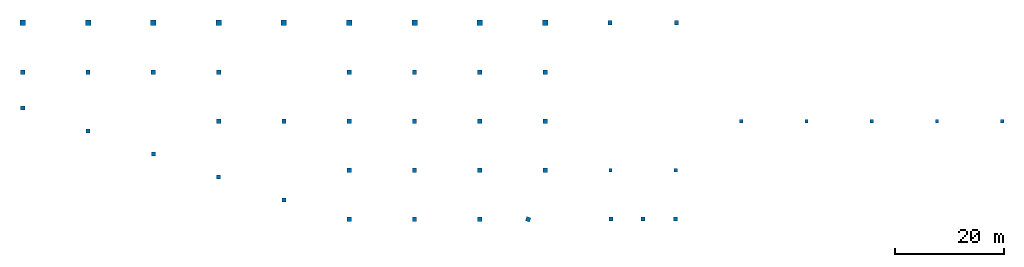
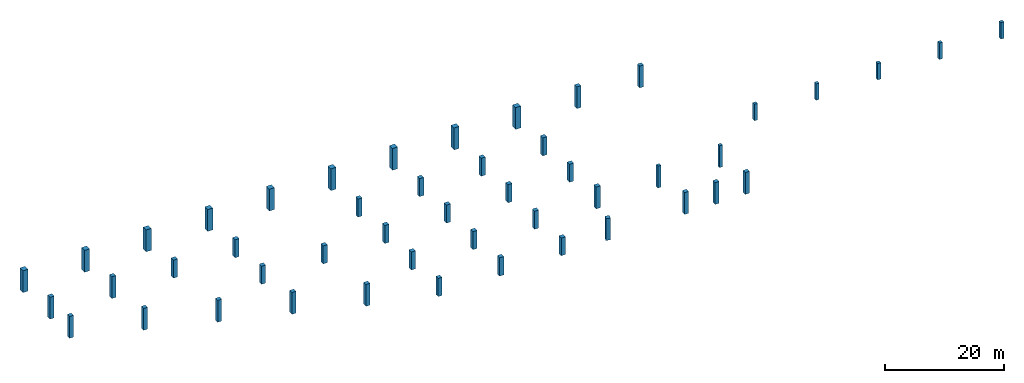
# One storey: 48 columns.
"""IFC2X3 building model written with IfcOpenShell, lengths in millimetres."""

from ifc_helpers import new_model, si_unit, origin, place, context, project, spatial, faceted_brep, material, element, save


model = new_model("IFC2X3")

# Units and contexts
context_of_model = context(None, 3, precision=1e-05, world=origin())
ifc_project = project(units=[si_unit("LENGTHUNIT", "METRE", prefix="MILLI")], contexts=[context_of_model])

# Building, storey
building = spatial("IfcBuilding", under=ifc_project, Name="Building", CompositionType="ELEMENT")
storey = spatial("IfcBuildingStorey", under=building, Name="B1-FRM", CompositionType="ELEMENT")

# Columns
ifc_material_1 = material(Name="C5000")
column_1_placement = place(None, origin())
element("IfcColumn", 1, at=column_1_placement, inside=storey, material=ifc_material_1, Name="Column214", context=context_of_model, shape_type="Brep", body=[
    faceted_brep([(-299.999, -299.999, -4500.0), (462.001, -299.999, -4500.0), (462.001, -299.999, 0.0), (-299.999, -299.999, 0.0), (462.001, 462.001, -4500.0), (462.001, 462.001, 0.0), (-299.999, 462.001, -4500.0), (-299.999, 462.001, 0.0)], [[[0, 1, 2, 3]], [[1, 4, 5, 2]], [[4, 6, 7, 5]], [[6, 0, 3, 7]], [[0, 6, 4, 1]], [[3, 2, 5, 7]]]),
])
ifc_material_2 = material(Name="C5000")
column_2_placement = place(None, origin())
element("IfcColumn", 2, at=column_2_placement, inside=storey, material=ifc_material_2, Name="Column215", context=context_of_model, shape_type="Brep", body=[
    faceted_brep([(11538.0, -299.999, -4500.0), (12300.0, -299.999, -4500.0), (12300.0, -299.999, 0.0), (11538.0, -299.999, 0.0), (12300.0, 462.001, -4500.0), (12300.0, 462.001, 0.0), (11538.0, 462.001, -4500.0), (11538.0, 462.001, 0.0)], [[[0, 1, 2, 3]], [[1, 4, 5, 2]], [[4, 6, 7, 5]], [[6, 0, 3, 7]], [[0, 6, 4, 1]], [[3, 2, 5, 7]]]),
])
ifc_material_3 = material(Name="C5000")
column_3_placement = place(None, origin())
element("IfcColumn", 3, at=column_3_placement, inside=storey, material=ifc_material_3, Name="Column247", context=context_of_model, shape_type="Brep", body=[
    faceted_brep([(6381.0, -299.999, -4500.0), (6381.0, 462.001, -4500.0), (6381.0, 462.001, 0.0), (6381.0, -299.999, 0.0), (5619.0, 462.001, -4500.0), (5619.0, 462.001, 0.0), (5619.0, -299.999, -4500.0), (5619.0, -299.999, 0.0)], [[[0, 1, 2, 3]], [[1, 4, 5, 2]], [[4, 6, 7, 5]], [[6, 0, 3, 7]], [[0, 6, 4, 1]], [[3, 2, 5, 7]]]),
])
ifc_material_4 = material(Name="C5000")
column_4_placement = place(None, origin())
element("IfcColumn", 4, at=column_4_placement, inside=storey, material=ifc_material_4, Name="Column255", context=context_of_model, shape_type="Brep", body=[
    faceted_brep([(48304.8, 17695.2, -4500.0), (48304.8, 18304.8, -4500.0), (48304.8, 18304.8, -1117.6), (48304.8, 17695.2, -1117.6), (47695.2, 18304.8, -4500.0), (47695.2, 18304.8, -1117.6), (47695.2, 17695.2, -4500.0), (47695.2, 17695.2, -1117.6)], [[[0, 1, 2, 3]], [[1, 4, 5, 2]], [[4, 6, 7, 5]], [[6, 0, 3, 7]], [[0, 6, 4, 1]], [[3, 2, 5, 7]]]),
])
ifc_material_5 = material(Name="C5000")
column_5_placement = place(None, origin())
element("IfcColumn", 5, at=column_5_placement, inside=storey, material=ifc_material_5, Name="Column256", context=context_of_model, shape_type="Brep", body=[
    faceted_brep([(72304.8, 17695.2, -4500.0), (72304.8, 18304.8, -4500.0), (72304.8, 18304.8, -1117.6), (72304.8, 17695.2, -1117.6), (71695.2, 18304.8, -4500.0), (71695.2, 18304.8, -1117.6), (71695.2, 17695.2, -4500.0), (71695.2, 17695.2, -1117.6)], [[[0, 1, 2, 3]], [[1, 4, 5, 2]], [[4, 6, 7, 5]], [[6, 0, 3, 7]], [[0, 6, 4, 1]], [[3, 2, 5, 7]]]),
])
ifc_material_6 = material(Name="C5000")
column_6_placement = place(None, origin())
element("IfcColumn", 6, at=column_6_placement, inside=storey, material=ifc_material_6, Name="Column257", context=context_of_model, shape_type="Brep", body=[
    faceted_brep([(60304.8, 17695.2, -4500.0), (60304.8, 18304.8, -4500.0), (60304.8, 18304.8, -1117.6), (60304.8, 17695.2, -1117.6), (59695.2, 18304.8, -4500.0), (59695.2, 18304.8, -1117.6), (59695.2, 17695.2, -4500.0), (59695.2, 17695.2, -1117.6)], [[[0, 1, 2, 3]], [[1, 4, 5, 2]], [[4, 6, 7, 5]], [[6, 0, 3, 7]], [[0, 6, 4, 1]], [[3, 2, 5, 7]]]),
])
ifc_material_7 = material(Name="C5000")
column_7_placement = place(None, origin())
element("IfcColumn", 7, at=column_7_placement, inside=storey, material=ifc_material_7, Name="Column258", context=context_of_model, shape_type="Brep", body=[
    faceted_brep([(36304.8, 17695.2, -4500.0), (36304.8, 18304.8, -4500.0), (36304.8, 18304.8, -1117.6), (36304.8, 17695.2, -1117.6), (35695.2, 18304.8, -4500.0), (35695.2, 18304.8, -1117.6), (35695.2, 17695.2, -4500.0), (35695.2, 17695.2, -1117.6)], [[[0, 1, 2, 3]], [[1, 4, 5, 2]], [[4, 6, 7, 5]], [[6, 0, 3, 7]], [[0, 6, 4, 1]], [[3, 2, 5, 7]]]),
])
ifc_material_8 = material(Name="C5000")
column_8_placement = place(None, origin())
element("IfcColumn", 8, at=column_8_placement, inside=storey, material=ifc_material_8, Name="Column259", context=context_of_model, shape_type="Brep", body=[
    faceted_brep([(24304.8, 17695.2, -4500.0), (24304.8, 18304.8, -4500.0), (24304.8, 18304.8, -1117.6), (24304.8, 17695.2, -1117.6), (23695.2, 18304.8, -4500.0), (23695.2, 18304.8, -1117.6), (23695.2, 17695.2, -4500.0), (23695.2, 17695.2, -1117.6)], [[[0, 1, 2, 3]], [[1, 4, 5, 2]], [[4, 6, 7, 5]], [[6, 0, 3, 7]], [[0, 6, 4, 1]], [[3, 2, 5, 7]]]),
])
ifc_material_9 = material(Name="C5000")
column_9_placement = place(None, origin())
element("IfcColumn", 9, at=column_9_placement, inside=storey, material=ifc_material_9, Name="B27", context=context_of_model, shape_type="Brep", body=[
    faceted_brep([(-107500.0, 35619.0, -4500.0), (-107500.0, 36619.0, -4500.0), (-107500.0, 36619.0, 0.0), (-107500.0, 35619.0, 0.0), (-108500.0, 36619.0, -4500.0), (-108500.0, 36619.0, 0.0), (-108500.0, 35619.0, -4500.0), (-108500.0, 35619.0, 0.0)], [[[0, 1, 2, 3]], [[1, 4, 5, 2]], [[4, 6, 7, 5]], [[6, 0, 3, 7]], [[0, 6, 4, 1]], [[3, 2, 5, 7]]]),
])
ifc_material_10 = material(Name="C5000")
column_10_placement = place(None, origin())
element("IfcColumn", 10, at=column_10_placement, inside=storey, material=ifc_material_10, Name="B28", context=context_of_model, shape_type="Brep", body=[
    faceted_brep([(-95500.0, 35619.0, -4500.0), (-95500.0, 36619.0, -4500.0), (-95500.0, 36619.0, 0.0), (-95500.0, 35619.0, 0.0), (-96500.0, 36619.0, -4500.0), (-96500.0, 36619.0, 0.0), (-96500.0, 35619.0, -4500.0), (-96500.0, 35619.0, 0.0)], [[[0, 1, 2, 3]], [[1, 4, 5, 2]], [[4, 6, 7, 5]], [[6, 0, 3, 7]], [[0, 6, 4, 1]], [[3, 2, 5, 7]]]),
])
ifc_material_11 = material(Name="C5000")
column_11_placement = place(None, origin())
element("IfcColumn", 11, at=column_11_placement, inside=storey, material=ifc_material_11, Name="B29", context=context_of_model, shape_type="Brep", body=[
    faceted_brep([(-83500.0, 35619.0, -4500.0), (-83500.0, 36619.0, -4500.0), (-83500.0, 36619.0, 0.0), (-83500.0, 35619.0, 0.0), (-84500.0, 36619.0, -4500.0), (-84500.0, 36619.0, 0.0), (-84500.0, 35619.0, -4500.0), (-84500.0, 35619.0, 0.0)], [[[0, 1, 2, 3]], [[1, 4, 5, 2]], [[4, 6, 7, 5]], [[6, 0, 3, 7]], [[0, 6, 4, 1]], [[3, 2, 5, 7]]]),
])
ifc_material_12 = material(Name="C5000")
column_12_placement = place(None, origin())
element("IfcColumn", 12, at=column_12_placement, inside=storey, material=ifc_material_12, Name="B30", context=context_of_model, shape_type="Brep", body=[
    faceted_brep([(-71500.0, 35619.0, -4500.0), (-71500.0, 36619.0, -4500.0), (-71500.0, 36619.0, 0.0), (-71500.0, 35619.0, 0.0), (-72500.0, 36619.0, -4500.0), (-72500.0, 36619.0, 0.0), (-72500.0, 35619.0, -4500.0), (-72500.0, 35619.0, 0.0)], [[[0, 1, 2, 3]], [[1, 4, 5, 2]], [[4, 6, 7, 5]], [[6, 0, 3, 7]], [[0, 6, 4, 1]], [[3, 2, 5, 7]]]),
])
ifc_material_13 = material(Name="C5000")
column_13_placement = place(None, origin())
element("IfcColumn", 13, at=column_13_placement, inside=storey, material=ifc_material_13, Name="B31", context=context_of_model, shape_type="Brep", body=[
    faceted_brep([(-59500.0, 35619.0, -4500.0), (-59500.0, 36619.0, -4500.0), (-59500.0, 36619.0, 0.0), (-59500.0, 35619.0, 0.0), (-60500.0, 36619.0, -4500.0), (-60500.0, 36619.0, 0.0), (-60500.0, 35619.0, -4500.0), (-60500.0, 35619.0, 0.0)], [[[0, 1, 2, 3]], [[1, 4, 5, 2]], [[4, 6, 7, 5]], [[6, 0, 3, 7]], [[0, 6, 4, 1]], [[3, 2, 5, 7]]]),
])
ifc_material_14 = material(Name="C5000")
column_14_placement = place(None, origin())
element("IfcColumn", 14, at=column_14_placement, inside=storey, material=ifc_material_14, Name="B32", context=context_of_model, shape_type="Brep", body=[
    faceted_brep([(-47500.0, 35619.0, -4500.0), (-47500.0, 36619.0, -4500.0), (-47500.0, 36619.0, 0.0), (-47500.0, 35619.0, 0.0), (-48500.0, 36619.0, -4500.0), (-48500.0, 36619.0, 0.0), (-48500.0, 35619.0, -4500.0), (-48500.0, 35619.0, 0.0)], [[[0, 1, 2, 3]], [[1, 4, 5, 2]], [[4, 6, 7, 5]], [[6, 0, 3, 7]], [[0, 6, 4, 1]], [[3, 2, 5, 7]]]),
])
ifc_material_15 = material(Name="C5000")
column_15_placement = place(None, origin())
element("IfcColumn", 15, at=column_15_placement, inside=storey, material=ifc_material_15, Name="B33", context=context_of_model, shape_type="Brep", body=[
    faceted_brep([(-35500.0, 35619.0, -4500.0), (-35500.0, 36619.0, -4500.0), (-35500.0, 36619.0, 0.0), (-35500.0, 35619.0, 0.0), (-36500.0, 36619.0, -4500.0), (-36500.0, 36619.0, 0.0), (-36500.0, 35619.0, -4500.0), (-36500.0, 35619.0, 0.0)], [[[0, 1, 2, 3]], [[1, 4, 5, 2]], [[4, 6, 7, 5]], [[6, 0, 3, 7]], [[0, 6, 4, 1]], [[3, 2, 5, 7]]]),
])
ifc_material_16 = material(Name="C5000")
column_16_placement = place(None, origin())
element("IfcColumn", 16, at=column_16_placement, inside=storey, material=ifc_material_16, Name="B34", context=context_of_model, shape_type="Brep", body=[
    faceted_brep([(-23500.0, 35619.0, -4500.0), (-23500.0, 36619.0, -4500.0), (-23500.0, 36619.0, 0.0), (-23500.0, 35619.0, 0.0), (-24500.0, 36619.0, -4500.0), (-24500.0, 36619.0, 0.0), (-24500.0, 35619.0, -4500.0), (-24500.0, 35619.0, 0.0)], [[[0, 1, 2, 3]], [[1, 4, 5, 2]], [[4, 6, 7, 5]], [[6, 0, 3, 7]], [[0, 6, 4, 1]], [[3, 2, 5, 7]]]),
])
ifc_material_17 = material(Name="C5000")
column_17_placement = place(None, origin())
element("IfcColumn", 17, at=column_17_placement, inside=storey, material=ifc_material_17, Name="B35", context=context_of_model, shape_type="Brep", body=[
    faceted_brep([(-11500.0, 35619.0, -4500.0), (-11500.0, 36619.0, -4500.0), (-11500.0, 36619.0, 0.0), (-11500.0, 35619.0, 0.0), (-12500.0, 36619.0, -4500.0), (-12500.0, 36619.0, 0.0), (-12500.0, 35619.0, -4500.0), (-12500.0, 35619.0, 0.0)], [[[0, 1, 2, 3]], [[1, 4, 5, 2]], [[4, 6, 7, 5]], [[6, 0, 3, 7]], [[0, 6, 4, 1]], [[3, 2, 5, 7]]]),
])
ifc_material_18 = material(Name="C5000")
column_18_placement = place(None, origin())
element("IfcColumn", 18, at=column_18_placement, inside=storey, material=ifc_material_18, Name="Column521", context=context_of_model, shape_type="Brep", body=[
    faceted_brep([(-95619.0, 15850.9, -4500.0), (-95619.0, 16612.9, -4500.0), (-95619.0, 16612.9, -1.43332e-12), (-95619.0, 15850.9, 7.03916e-13), (-96381.0, 16612.9, -4500.0), (-96381.0, 16612.9, -1.06862e-12), (-96381.0, 15850.9, -4500.0), (-96381.0, 15850.9, 1.06862e-12)], [[[0, 1, 2, 3]], [[1, 4, 5, 2]], [[4, 6, 7, 5]], [[6, 0, 3, 7]], [[0, 6, 4, 1]], [[3, 2, 5, 7]]]),
])
ifc_material_19 = material(Name="C5000")
column_19_placement = place(None, origin())
element("IfcColumn", 19, at=column_19_placement, inside=storey, material=ifc_material_19, Name="Column522", context=context_of_model, shape_type="Brep", body=[
    faceted_brep([(-83619.0, 11632.6, -4500.0), (-83619.0, 12394.6, -4500.0), (-83619.0, 12394.6, -9.64044e-13), (-83619.0, 11632.6, 2.59802e-12), (-84381.0, 12394.6, -4500.0), (-84381.0, 12394.6, -3.56206e-13), (-84381.0, 11632.6, -4500.0), (-84381.0, 11632.6, 3.20586e-12)], [[[0, 1, 2, 3]], [[1, 4, 5, 2]], [[4, 6, 7, 5]], [[6, 0, 3, 7]], [[0, 6, 4, 1]], [[3, 2, 5, 7]]]),
])
ifc_material_20 = material(Name="C5000")
column_20_placement = place(None, origin())
element("IfcColumn", 20, at=column_20_placement, inside=storey, material=ifc_material_20, Name="Column523", context=context_of_model, shape_type="Brep", body=[
    faceted_brep([(-71619.0, 7414.39, -4500.0), (-71619.0, 8176.39, -4500.0), (-71619.0, 8176.39, -1.75082e-06), (-71619.0, 7414.39, -1.75082e-06), (-72381.0, 8176.39, -4500.0), (-72381.0, 8176.39, 1.78103e-13), (-72381.0, 7414.39, -4500.0), (-72381.0, 7414.39, 2.67155e-12)], [[[0, 1, 2, 3]], [[1, 4, 5, 2]], [[4, 6, 7, 5]], [[6, 0, 3, 7]], [[0, 6, 4, 1]], [[3, 2, 5, 7]]]),
])
ifc_material_21 = material(Name="C5000")
column_21_placement = place(None, origin())
element("IfcColumn", 21, at=column_21_placement, inside=storey, material=ifc_material_21, Name="Column524", context=context_of_model, shape_type="Brep", body=[
    faceted_brep([(-59619.0, 3196.15, -4500.0), (-59619.0, 3958.15, -4500.0), (-59619.0, 3958.15, -1.13471e-12), (-59619.0, 3196.15, 5.57267e-13), (-60381.0, 3958.15, -4500.0), (-60381.0, 3958.15, -8.4599e-13), (-60381.0, 3196.15, -4500.0), (-60381.0, 3196.15, 8.4599e-13)], [[[0, 1, 2, 3]], [[1, 4, 5, 2]], [[4, 6, 7, 5]], [[6, 0, 3, 7]], [[0, 6, 4, 1]], [[3, 2, 5, 7]]]),
])
ifc_material_22 = material(Name="C5000")
column_22_placement = place(None, origin())
element("IfcColumn", 22, at=column_22_placement, inside=storey, material=ifc_material_22, Name="Column526", context=context_of_model, shape_type="Brep", body=[
    faceted_brep([(-95600.0, 27400.0, -4500.0), (-96400.0, 27400.0, -4500.0), (-96400.0, 27400.0, 0.0), (-95600.0, 27400.0, 0.0), (-96400.0, 26600.0, -4500.0), (-96400.0, 26600.0, 0.0), (-95600.0, 26600.0, -4500.0), (-95600.0, 26600.0, 0.0)], [[[0, 1, 2, 3]], [[1, 4, 5, 2]], [[4, 6, 7, 5]], [[6, 0, 3, 7]], [[0, 6, 4, 1]], [[3, 2, 5, 7]]]),
])
ifc_material_23 = material(Name="C5000")
column_23_placement = place(None, origin())
element("IfcColumn", 23, at=column_23_placement, inside=storey, material=ifc_material_23, Name="Column527", context=context_of_model, shape_type="Brep", body=[
    faceted_brep([(-83600.0, 27400.0, -4500.0), (-84400.0, 27400.0, -4500.0), (-84400.0, 27400.0, -787.4), (-83600.0, 27400.0, -787.4), (-84400.0, 26600.0, -4500.0), (-84400.0, 26599.9, -787.4), (-83600.0, 26600.0, -4500.0), (-83600.0, 26599.9, -787.4)], [[[0, 1, 2, 3]], [[1, 4, 5, 2]], [[4, 6, 7, 5]], [[6, 0, 3, 7]], [[0, 6, 4, 1]], [[3, 2, 5, 7]]]),
])
ifc_material_24 = material(Name="C5000")
column_24_placement = place(None, origin())
element("IfcColumn", 24, at=column_24_placement, inside=storey, material=ifc_material_24, Name="Column528", context=context_of_model, shape_type="Brep", body=[
    faceted_brep([(-71600.0, 27400.0, -4500.0), (-72400.0, 27400.0, -4500.0), (-72400.1, 27400.0, -787.4), (-71600.0, 27400.0, -787.4), (-72400.0, 26600.0, -4500.0), (-72400.1, 26600.0, -787.4), (-71600.0, 26600.0, -4500.0), (-71600.0, 26600.0, -787.4)], [[[0, 1, 2, 3]], [[1, 4, 5, 2]], [[4, 6, 7, 5]], [[6, 0, 3, 7]], [[0, 6, 4, 1]], [[3, 2, 5, 7]]]),
])
ifc_material_25 = material(Name="C5000")
column_25_placement = place(None, origin())
element("IfcColumn", 25, at=column_25_placement, inside=storey, material=ifc_material_25, Name="Column529", context=context_of_model, shape_type="Brep", body=[
    faceted_brep([(-71600.0, 18400.0, -4500.0), (-72400.0, 18400.0, -4500.0), (-72400.0, 18400.0, -787.4), (-71600.0, 18400.0, -787.4), (-72400.0, 17600.0, -4500.0), (-72400.0, 17600.0, -787.4), (-71600.0, 17600.0, -4500.0), (-71600.0, 17600.0, -787.4)], [[[0, 1, 2, 3]], [[1, 4, 5, 2]], [[4, 6, 7, 5]], [[6, 0, 3, 7]], [[0, 6, 4, 1]], [[3, 2, 5, 7]]]),
])
ifc_material_26 = material(Name="C5000")
column_26_placement = place(None, origin())
element("IfcColumn", 26, at=column_26_placement, inside=storey, material=ifc_material_26, Name="Column530", context=context_of_model, shape_type="Brep", body=[
    faceted_brep([(-59599.9, 18400.0, -4500.0), (-60400.1, 18400.0, -4500.0), (-60400.1, 18400.0, -787.4), (-59599.9, 18400.0, -787.4), (-60400.1, 17600.0, -4500.0), (-60400.1, 17600.0, -787.4), (-59599.9, 17600.0, -4500.0), (-59599.9, 17600.0, -787.4)], [[[0, 1, 2, 3]], [[1, 4, 5, 2]], [[4, 6, 7, 5]], [[6, 0, 3, 7]], [[0, 6, 4, 1]], [[3, 2, 5, 7]]]),
])
ifc_material_27 = material(Name="C5000")
column_27_placement = place(None, origin())
element("IfcColumn", 27, at=column_27_placement, inside=storey, material=ifc_material_27, Name="Column531", context=context_of_model, shape_type="Brep", body=[
    faceted_brep([(-47599.9, 9400.05, -4500.0), (-48400.1, 9400.05, -4500.0), (-48400.0, 9400.05, -787.4), (-47599.9, 9400.05, -787.4), (-48400.1, 8599.95, -4500.0), (-48400.0, 8599.95, -787.4), (-47599.9, 8599.95, -4500.0), (-47599.9, 8599.95, -787.4)], [[[0, 1, 2, 3]], [[1, 4, 5, 2]], [[4, 6, 7, 5]], [[6, 0, 3, 7]], [[0, 6, 4, 1]], [[3, 2, 5, 7]]]),
])
ifc_material_28 = material(Name="C5000")
column_28_placement = place(None, origin())
element("IfcColumn", 28, at=column_28_placement, inside=storey, material=ifc_material_28, Name="Column532", context=context_of_model, shape_type="Brep", body=[
    faceted_brep([(-47599.9, 18400.0, -4500.0), (-48400.1, 18400.0, -4500.0), (-48400.1, 18400.0, -787.4), (-47599.9, 18400.0, -787.4), (-48400.1, 17600.0, -4500.0), (-48400.1, 17600.0, -787.4), (-47599.9, 17600.0, -4500.0), (-47599.9, 17600.0, -787.4)], [[[0, 1, 2, 3]], [[1, 4, 5, 2]], [[4, 6, 7, 5]], [[6, 0, 3, 7]], [[0, 6, 4, 1]], [[3, 2, 5, 7]]]),
])
ifc_material_29 = material(Name="C5000")
column_29_placement = place(None, origin())
element("IfcColumn", 29, at=column_29_placement, inside=storey, material=ifc_material_29, Name="Column533", context=context_of_model, shape_type="Brep", body=[
    faceted_brep([(-47599.9, 27400.0, -4500.0), (-48400.1, 27400.0, -4500.0), (-48400.0, 27400.0, -787.4), (-47599.9, 27400.0, -787.4), (-48400.1, 26600.0, -4500.0), (-48400.0, 26600.0, -787.4), (-47599.9, 26600.0, -4500.0), (-47599.9, 26600.0, -787.4)], [[[0, 1, 2, 3]], [[1, 4, 5, 2]], [[4, 6, 7, 5]], [[6, 0, 3, 7]], [[0, 6, 4, 1]], [[3, 2, 5, 7]]]),
])
ifc_material_30 = material(Name="C5000")
column_30_placement = place(None, origin())
element("IfcColumn", 30, at=column_30_placement, inside=storey, material=ifc_material_30, Name="Column534", context=context_of_model, shape_type="Brep", body=[
    faceted_brep([(-35599.9, 9400.05, -4500.0), (-36400.1, 9400.05, -4500.0), (-36400.0, 9400.05, -787.4), (-35599.9, 9400.05, -787.4), (-36400.1, 8599.95, -4500.0), (-36400.0, 8599.95, -787.4), (-35599.9, 8599.95, -4500.0), (-35599.9, 8599.95, -787.4)], [[[0, 1, 2, 3]], [[1, 4, 5, 2]], [[4, 6, 7, 5]], [[6, 0, 3, 7]], [[0, 6, 4, 1]], [[3, 2, 5, 7]]]),
])
ifc_material_31 = material(Name="C5000")
column_31_placement = place(None, origin())
element("IfcColumn", 31, at=column_31_placement, inside=storey, material=ifc_material_31, Name="Column535", context=context_of_model, shape_type="Brep", body=[
    faceted_brep([(-35599.9, 18400.0, -4500.0), (-36400.1, 18400.0, -4500.0), (-36400.1, 18400.0, -787.4), (-35599.9, 18400.0, -787.4), (-36400.1, 17600.0, -4500.0), (-36400.1, 17600.0, -787.4), (-35599.9, 17600.0, -4500.0), (-35599.9, 17600.0, -787.4)], [[[0, 1, 2, 3]], [[1, 4, 5, 2]], [[4, 6, 7, 5]], [[6, 0, 3, 7]], [[0, 6, 4, 1]], [[3, 2, 5, 7]]]),
])
ifc_material_32 = material(Name="C5000")
column_32_placement = place(None, origin())
element("IfcColumn", 32, at=column_32_placement, inside=storey, material=ifc_material_32, Name="Column536", context=context_of_model, shape_type="Brep", body=[
    faceted_brep([(-35599.9, 27400.0, -4500.0), (-36400.1, 27400.0, -4500.0), (-36400.1, 27400.0, -787.4), (-35599.9, 27400.0, -787.4), (-36400.1, 26600.0, -4500.0), (-36400.1, 26600.0, -787.4), (-35599.9, 26600.0, -4500.0), (-35599.9, 26600.0, -787.4)], [[[0, 1, 2, 3]], [[1, 4, 5, 2]], [[4, 6, 7, 5]], [[6, 0, 3, 7]], [[0, 6, 4, 1]], [[3, 2, 5, 7]]]),
])
ifc_material_33 = material(Name="C5000")
column_33_placement = place(None, origin())
element("IfcColumn", 33, at=column_33_placement, inside=storey, material=ifc_material_33, Name="Column537", context=context_of_model, shape_type="Brep", body=[
    faceted_brep([(-23600.0, 27400.0, -4500.0), (-24400.0, 27400.0, -4500.0), (-24400.0, 27400.0, -787.4), (-23599.9, 27400.0, -787.4), (-24400.0, 26600.0, -4500.0), (-24400.0, 26600.0, -787.4), (-23600.0, 26600.0, -4500.0), (-23599.9, 26600.0, -787.4)], [[[0, 1, 2, 3]], [[1, 4, 5, 2]], [[4, 6, 7, 5]], [[6, 0, 3, 7]], [[0, 6, 4, 1]], [[3, 2, 5, 7]]]),
])
ifc_material_34 = material(Name="C5000")
column_34_placement = place(None, origin())
element("IfcColumn", 34, at=column_34_placement, inside=storey, material=ifc_material_34, Name="Column538", context=context_of_model, shape_type="Brep", body=[
    faceted_brep([(-23600.0, 18400.0, -4500.0), (-24400.0, 18400.0, -4500.0), (-24400.0, 18400.0, -787.4), (-23600.0, 18400.0, -787.4), (-24400.0, 17600.0, -4500.0), (-24400.0, 17600.0, -787.4), (-23600.0, 17600.0, -4500.0), (-23600.0, 17600.0, -787.4)], [[[0, 1, 2, 3]], [[1, 4, 5, 2]], [[4, 6, 7, 5]], [[6, 0, 3, 7]], [[0, 6, 4, 1]], [[3, 2, 5, 7]]]),
])
ifc_material_35 = material(Name="C5000")
column_35_placement = place(None, origin())
element("IfcColumn", 35, at=column_35_placement, inside=storey, material=ifc_material_35, Name="Column539", context=context_of_model, shape_type="Brep", body=[
    faceted_brep([(-23600.0, 9400.05, -4500.0), (-24400.0, 9400.05, -4500.0), (-24400.0, 9400.05, -787.4), (-23599.9, 9400.05, -787.4), (-24400.0, 8599.95, -4500.0), (-24400.0, 8599.95, -787.4), (-23600.0, 8599.95, -4500.0), (-23599.9, 8599.95, -787.4)], [[[0, 1, 2, 3]], [[1, 4, 5, 2]], [[4, 6, 7, 5]], [[6, 0, 3, 7]], [[0, 6, 4, 1]], [[3, 2, 5, 7]]]),
])
ifc_material_36 = material(Name="C5000")
column_36_placement = place(None, origin())
element("IfcColumn", 36, at=column_36_placement, inside=storey, material=ifc_material_36, Name="Column540", context=context_of_model, shape_type="Brep", body=[
    faceted_brep([(-11599.9, 18400.0, -4500.0), (-12400.1, 18400.0, -4500.0), (-12400.1, 18400.0, -787.4), (-11599.9, 18400.0, -787.4), (-12400.1, 17600.0, -4500.0), (-12400.1, 17600.0, -787.4), (-11599.9, 17600.0, -4500.0), (-11599.9, 17600.0, -787.4)], [[[0, 1, 2, 3]], [[1, 4, 5, 2]], [[4, 6, 7, 5]], [[6, 0, 3, 7]], [[0, 6, 4, 1]], [[3, 2, 5, 7]]]),
])
ifc_material_37 = material(Name="C5000")
column_37_placement = place(None, origin())
element("IfcColumn", 37, at=column_37_placement, inside=storey, material=ifc_material_37, Name="Column541", context=context_of_model, shape_type="Brep", body=[
    faceted_brep([(-11599.9, 27400.0, -4500.0), (-12400.1, 27400.0, -4500.0), (-12400.1, 27400.0, -787.4), (-11599.9, 27400.0, -787.4), (-12400.1, 26600.0, -4500.0), (-12400.1, 26600.0, -787.4), (-11599.9, 26600.0, -4500.0), (-11599.9, 26600.0, -787.4)], [[[0, 1, 2, 3]], [[1, 4, 5, 2]], [[4, 6, 7, 5]], [[6, 0, 3, 7]], [[0, 6, 4, 1]], [[3, 2, 5, 7]]]),
])
ifc_material_38 = material(Name="C5000")
column_38_placement = place(None, origin())
element("IfcColumn", 38, at=column_38_placement, inside=storey, material=ifc_material_38, Name="Column568", context=context_of_model, shape_type="Brep", body=[
    faceted_brep([(-107619.0, 20069.1, -4500.0), (-107619.0, 20831.1, -4500.0), (-107619.0, 20831.1, -2.13811e-13), (-107619.0, 20069.1, 1.92343e-12), (-108381.0, 20831.1, -4500.0), (-108381.0, 20831.1, 3.56206e-13), (-108381.0, 20069.1, -4500.0), (-108381.0, 20069.1, 2.49344e-12)], [[[0, 1, 2, 3]], [[1, 4, 5, 2]], [[4, 6, 7, 5]], [[6, 0, 3, 7]], [[0, 6, 4, 1]], [[3, 2, 5, 7]]]),
])
ifc_material_39 = material(Name="C5000")
column_39_placement = place(None, origin())
element("IfcColumn", 39, at=column_39_placement, inside=storey, material=ifc_material_39, Name="Column569", context=context_of_model, shape_type="Brep", body=[
    faceted_brep([(-108416.7, 26600.0, -4500.0), (-107616.6, 26600.0, -4500.0), (-107616.6, 26600.0, -3.85701e-05), (-108416.7, 26600.0, -3.85702e-05), (-107616.6, 27400.0, -4500.0), (-107616.6, 27400.0, 3.85702e-05), (-108416.7, 27400.0, -4500.0), (-108416.7, 27400.0, 3.857e-05)], [[[0, 1, 2, 3]], [[1, 4, 5, 2]], [[4, 6, 7, 5]], [[6, 0, 3, 7]], [[0, 6, 4, 1]], [[3, 2, 5, 7]]]),
])
ifc_material_40 = material(Name="C5000")
column_40_placement = place(None, origin())
element("IfcColumn", 40, at=column_40_placement, inside=storey, material=ifc_material_40, Name="Column627", context=context_of_model, shape_type="Brep", body=[
    faceted_brep([(-15640.2, -244.744, -4500.0), (-14885.4, -510.079, -4500.0), (-14885.4, -510.079, 9.99201e-13), (-15640.2, -244.744, -9.99201e-13), (-14620.1, 244.744, -4500.0), (-14620.1, 244.744, 9.99201e-13), (-15374.9, 510.079, -4500.0), (-15374.9, 510.079, -9.99201e-13)], [[[0, 1, 2, 3]], [[1, 4, 5, 2]], [[4, 6, 7, 5]], [[6, 0, 3, 7]], [[0, 6, 4, 1]], [[3, 2, 5, 7]]]),
])
ifc_material_41 = material(Name="C5000")
column_41_placement = place(None, origin())
element("IfcColumn", 41, at=column_41_placement, inside=storey, material=ifc_material_41, Name="Column628", context=context_of_model, shape_type="Brep", body=[
    faceted_brep([(-11600.0, 9400.05, -4500.0), (-12400.1, 9400.05, -4500.0), (-12400.1, 9400.05, -3.79874e-13), (-11599.9, 9400.05, -1.19726e-13), (-12400.1, 8599.95, -4500.0), (-12400.1, 8599.95, -3.79874e-13), (-11600.0, 8599.95, -4500.0), (-11599.9, 8599.95, -1.19726e-13)], [[[0, 1, 2, 3]], [[1, 4, 5, 2]], [[4, 6, 7, 5]], [[6, 0, 3, 7]], [[0, 6, 4, 1]], [[3, 2, 5, 7]]]),
])
ifc_material_42 = material(Name="C5000")
column_42_placement = place(None, origin())
element("IfcColumn", 42, at=column_42_placement, inside=storey, material=ifc_material_42, Name="B1122", context=context_of_model, shape_type="Brep", body=[
    faceted_brep([(-304.8, 8695.2, -4500.0), (304.8, 8695.2, -4500.0), (304.8, 8695.2, 0.0), (-304.8, 8695.2, 0.0), (304.8, 9304.8, -4500.0), (304.8, 9304.8, 0.0), (-304.8, 9304.8, -4500.0), (-304.8, 9304.8, 0.0)], [[[0, 1, 2, 3]], [[1, 4, 5, 2]], [[4, 6, 7, 5]], [[6, 0, 3, 7]], [[0, 6, 4, 1]], [[3, 2, 5, 7]]]),
])
ifc_material_43 = material(Name="C5000")
column_43_placement = place(None, origin())
element("IfcColumn", 43, at=column_43_placement, inside=storey, material=ifc_material_43, Name="B1123", context=context_of_model, shape_type="Brep", body=[
    faceted_brep([(262.0, 36500.0, -4500.0), (-500.0, 36500.0, -4500.0), (-500.0, 36500.0, 0.0), (262.0, 36500.0, 0.0), (-500.0, 35738.0, -4500.0), (-500.0, 35738.0, 0.0), (262.0, 35738.0, -4500.0), (262.0, 35738.0, 0.0)], [[[0, 1, 2, 3]], [[1, 4, 5, 2]], [[4, 6, 7, 5]], [[6, 0, 3, 7]], [[0, 6, 4, 1]], [[3, 2, 5, 7]]]),
])
ifc_material_44 = material(Name="C5000")
column_44_placement = place(None, origin())
element("IfcColumn", 44, at=column_44_placement, inside=storey, material=ifc_material_44, Name="B1124", context=context_of_model, shape_type="Brep", body=[
    faceted_brep([(12500.0, 36500.0, -4500.0), (11738.0, 36500.0, -4500.0), (11738.0, 36500.0, 0.0), (12500.0, 36500.0, 0.0), (11738.0, 35738.0, -4500.0), (11738.0, 35738.0, 0.0), (12500.0, 35738.0, -4500.0), (12500.0, 35738.0, 0.0)], [[[0, 1, 2, 3]], [[1, 4, 5, 2]], [[4, 6, 7, 5]], [[6, 0, 3, 7]], [[0, 6, 4, 1]], [[3, 2, 5, 7]]]),
])
ifc_material_45 = material(Name="C5000")
column_45_placement = place(None, origin())
element("IfcColumn", 45, at=column_45_placement, inside=storey, material=ifc_material_45, Name="B1210", context=context_of_model, shape_type="Brep", body=[
    faceted_brep([(11695.2, 8695.2, -4500.0), (12304.8, 8695.2, -4500.0), (12304.8, 8695.2, 0.0), (11695.2, 8695.2, 0.0), (12304.8, 9304.8, -4500.0), (12304.8, 9304.8, 0.0), (11695.2, 9304.8, -4500.0), (11695.2, 9304.8, 0.0)], [[[0, 1, 2, 3]], [[1, 4, 5, 2]], [[4, 6, 7, 5]], [[6, 0, 3, 7]], [[0, 6, 4, 1]], [[3, 2, 5, 7]]]),
])
ifc_material_46 = material(Name="C5000")
column_46_placement = place(None, origin())
element("IfcColumn", 46, at=column_46_placement, inside=storey, material=ifc_material_46, Name="Column658", context=context_of_model, shape_type="Brep", body=[
    faceted_brep([(-47600.0, 400.05, -4500.0), (-48400.1, 400.05, -4500.0), (-48400.1, 400.05, -787.4), (-47600.0, 400.05, -787.4), (-48400.1, -400.05, -4500.0), (-48400.1, -400.05, -787.4), (-47600.0, -400.05, -4500.0), (-47600.0, -400.05, -787.4)], [[[0, 1, 2, 3]], [[1, 4, 5, 2]], [[4, 6, 7, 5]], [[6, 0, 3, 7]], [[0, 6, 4, 1]], [[3, 2, 5, 7]]]),
])
ifc_material_47 = material(Name="C5000")
column_47_placement = place(None, origin())
element("IfcColumn", 47, at=column_47_placement, inside=storey, material=ifc_material_47, Name="Column659", context=context_of_model, shape_type="Brep", body=[
    faceted_brep([(-35600.0, 400.05, -4500.0), (-36400.1, 400.05, -4500.0), (-36400.1, 400.05, -711.2), (-35600.0, 400.05, -711.2), (-36400.1, -400.05, -4500.0), (-36400.1, -400.05, -711.2), (-35600.0, -400.05, -4500.0), (-35600.0, -400.05, -711.2)], [[[0, 1, 2, 3]], [[1, 4, 5, 2]], [[4, 6, 7, 5]], [[6, 0, 3, 7]], [[0, 6, 4, 1]], [[3, 2, 5, 7]]]),
])
ifc_material_48 = material(Name="C5000")
column_48_placement = place(None, origin())
element("IfcColumn", 48, at=column_48_placement, inside=storey, material=ifc_material_48, Name="Column660", context=context_of_model, shape_type="Brep", body=[
    faceted_brep([(-23600.0, 400.05, -4500.0), (-24400.1, 400.05, -4500.0), (-24400.1, 400.05, -863.6), (-23600.0, 400.05, -863.6), (-24400.1, -400.05, -4500.0), (-24400.1, -400.05, -863.6), (-23600.0, -400.05, -4500.0), (-23600.0, -400.05, -863.6)], [[[0, 1, 2, 3]], [[1, 4, 5, 2]], [[4, 6, 7, 5]], [[6, 0, 3, 7]], [[0, 6, 4, 1]], [[3, 2, 5, 7]]]),
])

save(model, "model.ifc")
